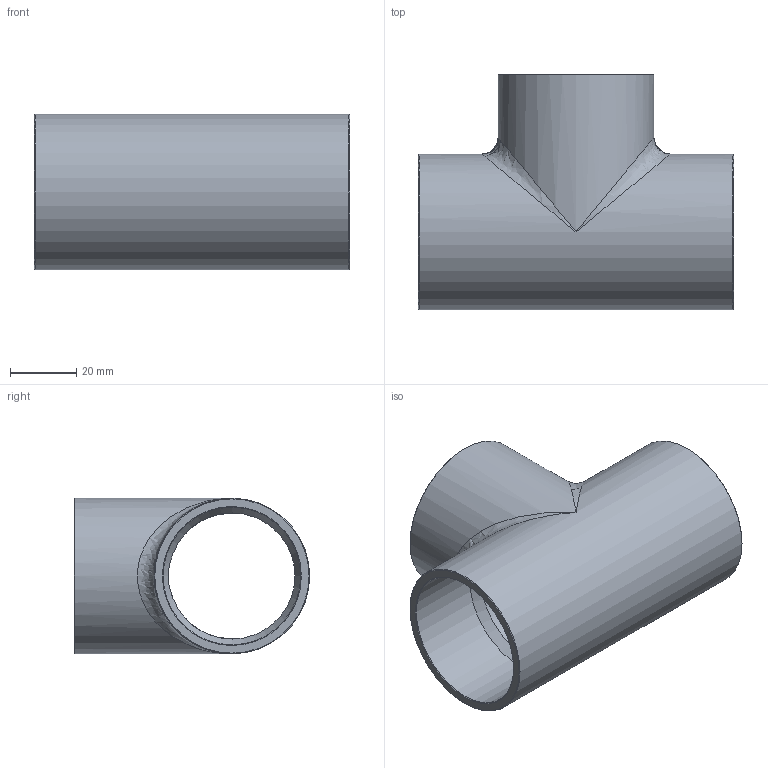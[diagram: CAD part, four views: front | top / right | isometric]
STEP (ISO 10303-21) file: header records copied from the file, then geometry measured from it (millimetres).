
FILE_DESCRIPTION((''),'2;1');
FILE_NAME('G:\SANHA-Ternat\Technik\Management\Bouwmaten + markeringen\z-maattekeningen 3D\29000s\29130158_3d.stp','2017-07-27T08:19:35',('vdvijverd'),(''),'Autodesk Inventor 2009','Autodesk Inventor 2009','');
FILE_SCHEMA(('AUTOMOTIVE_DESIGN { 1 0 10303 214 1 1 1 1 }'));
Length unit declared in the file: millimetre
Products named in the file (1): 29130158_3d
Bounding box: 95 x 70.95 x 46.9 mm (x, y, z)
Volume: 52787.3 mm3; surface area: 32541.7 mm2
Topology: 1 solids, 1 shells, 24 faces, 66 edges, 35 vertices
Faces by surface type: cone 8, cylinder 7, bspline 6, plane 3
Full cylindrical faces by diameter (mm): 41.455 x2, 46.9 x2
Entity records: 1494 total; most frequent: CARTESIAN_POINT 1001, DIRECTION 104, ORIENTED_EDGE 74, AXIS2_PLACEMENT_3D 52, EDGE_LOOP 42, EDGE_CURVE 37, VERTEX_POINT 29, FACE_OUTER_BOUND 24
